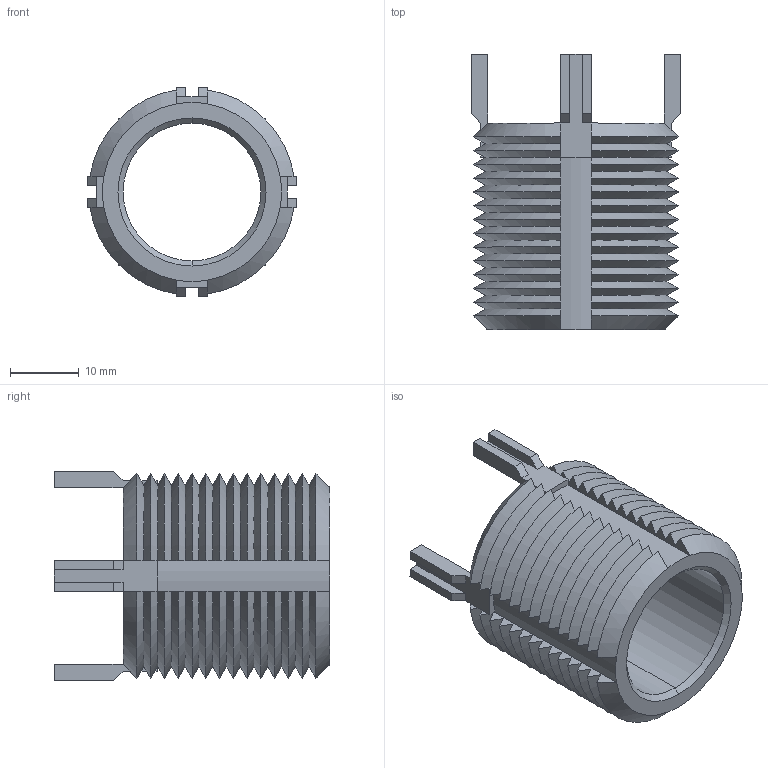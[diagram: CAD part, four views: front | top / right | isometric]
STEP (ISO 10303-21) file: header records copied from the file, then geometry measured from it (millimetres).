
FILE_DESCRIPTION (( 'STEP AP203' ), '1' );
FILE_NAME ('22002.W5731.step', '2023-03-20T19:30:28', ( '' ), ( '' ), 'SwSTEP 2.0', 'SolidWorks 2019', '' );
FILE_SCHEMA (( 'CONFIG_CONTROL_DESIGN' ));
Length unit declared in the file: millimetre
Products named in the file (1): 22002.W5731
Bounding box: 30.41 x 40 x 30.41 mm (x, y, z)
Volume: 9137.4 mm3; surface area: 7828 mm2
Topology: 1 solids, 1 shells, 212 faces, 562 edges, 352 vertices
Faces by surface type: cone 116, plane 90, cylinder 6
Entity records: 6811 total; most frequent: CARTESIAN_POINT 1895, ORIENTED_EDGE 1124, DIRECTION 864, EDGE_CURVE 562, VERTEX_POINT 352, AXIS2_PLACEMENT_3D 345, B_SPLINE_CURVE_WITH_KNOTS 256, EDGE_LOOP 214
